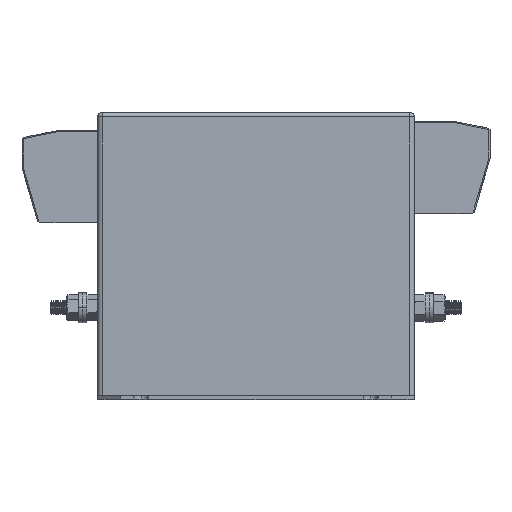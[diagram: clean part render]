
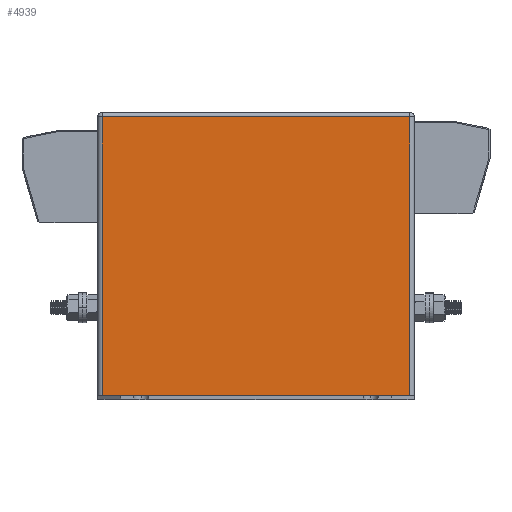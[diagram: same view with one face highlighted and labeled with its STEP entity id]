
A CAD part, top view. The second image highlights one B-rep face of the part: STEP entity #4939.
In plain terms, the highlighted planar face has unit normal (0, 0, 1).
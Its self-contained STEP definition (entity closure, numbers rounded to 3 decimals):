
#247 = CARTESIAN_POINT ( 'NONE',  ( 136., 123., -14. ) ) ;
#284 = EDGE_CURVE ( 'NONE', #7602, #4710, #595, .T. ) ;
#489 = CARTESIAN_POINT ( 'NONE',  ( 136., 125., -14. ) ) ;
#594 = ORIENTED_EDGE ( 'NONE', *, *, #9100, .T. ) ;
#595 = LINE ( 'NONE', #1584, #8780 ) ;
#1001 = DIRECTION ( 'NONE',  ( 0., 1., 0. ) ) ;
#1027 = EDGE_CURVE ( 'NONE', #3243, #7602, #2688, .T. ) ;
#1386 = FACE_OUTER_BOUND ( 'NONE', #4250, .T. ) ;
#1428 = LINE ( 'NONE', #489, #4519 ) ;
#1584 = CARTESIAN_POINT ( 'NONE',  ( 2., 125., -14. ) ) ;
#2383 = DIRECTION ( 'NONE',  ( 0., -1., 0. ) ) ;
#2601 = DIRECTION ( 'NONE',  ( 1., 0., 0. ) ) ;
#2688 = LINE ( 'NONE', #9083, #8902 ) ;
#2834 = EDGE_CURVE ( 'NONE', #5351, #3243, #1428, .T. ) ;
#3243 = VERTEX_POINT ( 'NONE', #247 ) ;
#4250 = EDGE_LOOP ( 'NONE', ( #6331, #6396, #594, #8527 ) ) ;
#4519 = VECTOR ( 'NONE', #1001, 1000. ) ;
#4710 = VERTEX_POINT ( 'NONE', #7326 ) ;
#4939 = ADVANCED_FACE ( 'NONE', ( #1386 ), #6171, .F. ) ;
#5065 = VECTOR ( 'NONE', #2601, 1000. ) ;
#5275 = CARTESIAN_POINT ( 'NONE',  ( 2., 123., -14. ) ) ;
#5351 = VERTEX_POINT ( 'NONE', #6831 ) ;
#5408 = CARTESIAN_POINT ( 'NONE',  ( 0., 125., -14. ) ) ;
#5586 = DIRECTION ( 'NONE',  ( -1., 0., 0. ) ) ;
#5749 = LINE ( 'NONE', #9153, #5065 ) ;
#6171 = PLANE ( 'NONE',  #9260 ) ;
#6331 = ORIENTED_EDGE ( 'NONE', *, *, #1027, .T. ) ;
#6396 = ORIENTED_EDGE ( 'NONE', *, *, #284, .T. ) ;
#6831 = CARTESIAN_POINT ( 'NONE',  ( 136., 1.5, -14. ) ) ;
#7326 = CARTESIAN_POINT ( 'NONE',  ( 2., 1.5, -14. ) ) ;
#7414 = DIRECTION ( 'NONE',  ( 0., 0., -1. ) ) ;
#7602 = VERTEX_POINT ( 'NONE', #5275 ) ;
#8336 = DIRECTION ( 'NONE',  ( -1., 0., 0. ) ) ;
#8527 = ORIENTED_EDGE ( 'NONE', *, *, #2834, .T. ) ;
#8780 = VECTOR ( 'NONE', #2383, 1000. ) ;
#8902 = VECTOR ( 'NONE', #5586, 1000. ) ;
#9083 = CARTESIAN_POINT ( 'NONE',  ( 0., 123., -14. ) ) ;
#9100 = EDGE_CURVE ( 'NONE', #4710, #5351, #5749, .T. ) ;
#9153 = CARTESIAN_POINT ( 'NONE',  ( 0., 1.5, -14. ) ) ;
#9260 = AXIS2_PLACEMENT_3D ( 'NONE', #5408, #7414, #8336 ) ;
